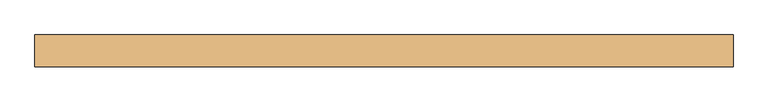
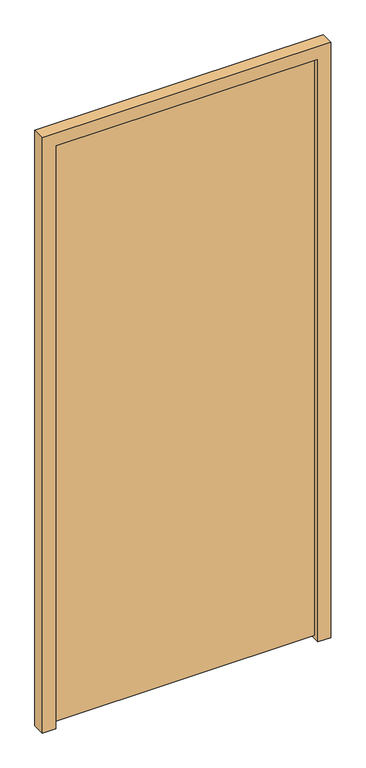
"""IFC4 building model written with IfcOpenShell, lengths in millimetres: door geometry, Dr_Дверь_v2.1 : ДВПС Оп Г 24-11,5 EI30."""

from ifc_helpers import new_model, si_unit, frame, origin, place, context, project, spatial, polyline, outline, extrude, source, transform, mapped, element, save


def door_3a59e23d(model_context):
    return source(origin(), model_context, "Body", "SweptSolid", [
        extrude(outline(polyline([(0.0, -425.0), (0.0, -375.0), (2350.0, -375.0), (2350.0, 625.0), (0.0, 625.0), (0.0, 675.0), (2400.0, 675.0), (2400.0, -425.0), (0.0, -425.0)])), frame((0.0, 50.0, 0.0), z_axis=(0.0, 1.0, 0.0), x_axis=(0.0, 0.0, 1.0)), (0.0, 0.0, 1.0), 50.0),
        extrude(outline(polyline([(625.0, 70.0), (-375.0, 70.0), (-375.0, 100.0), (625.0, 100.0), (625.0, 70.0)])), frame((0.0, 0.0, 14.0), z_axis=(0.0, 0.0, 1.0), x_axis=(1.0, 0.0, 0.0)), (0.0, 0.0, 1.0), 2336.0),
    ])


if __name__ == "__main__":
    model = new_model("IFC4")
    model_context = context("Model", 3, world=origin())
    ifc_project = project(units=[si_unit("LENGTHUNIT", "METRE", prefix="MILLI")], contexts=[model_context])
    site = spatial("IfcSite", under=ifc_project)
    building = spatial("IfcBuilding", under=site)
    placement = place(None, origin())
    door_shape = door_3a59e23d(model_context)
    element("IfcDoor", 1, ObjectType="Dr_Дверь_v2.1 : ДВПС Оп Г 24-11,5 EI30", at=placement, inside=building, context=model_context, shape_type="MappedRepresentation", body=[
        mapped(door_shape, transform((0.0, 0.0, 0.0), x_axis=(1.0, 0.0, 0.0), y_axis=(0.0, 1.0, 0.0), z_axis=(0.0, 0.0, 1.0))),
    ])
    save(model, "model.ifc")
